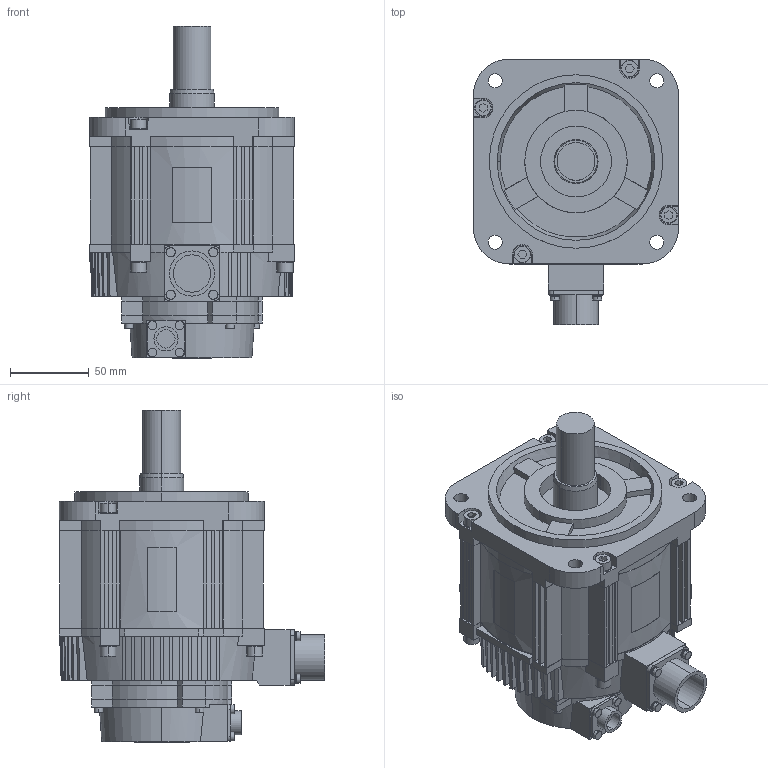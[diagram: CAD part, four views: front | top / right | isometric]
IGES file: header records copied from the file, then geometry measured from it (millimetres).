
Start section:  PTC IGES file: sgm7g_13_a21.igs
Global section: file name: sgm7g_13_a21.igs; native system: Pro/ENGINEER by Parametric Technology Corporation; preprocessor: 2011490; author: y-kamei; organization: Unknown; date: 20131120.155423; units: millimetre
Bounding box: 130 x 168.49 x 210.6 mm (x, y, z)
Surface area: 144570.4 mm2 (no closed solid volume)
Topology: 0 solids, 0 shells, 801 faces, 4220 edges, 4220 vertices
Faces by surface type: bspline 521, revolution 280
